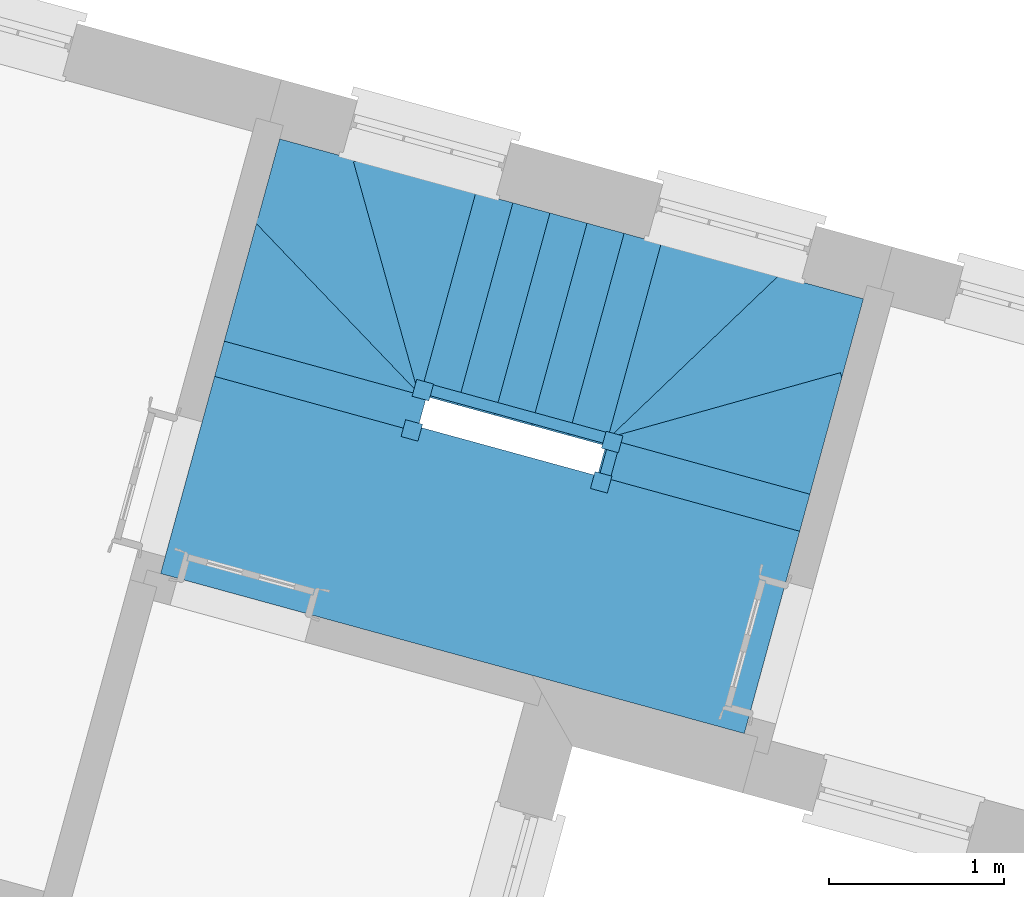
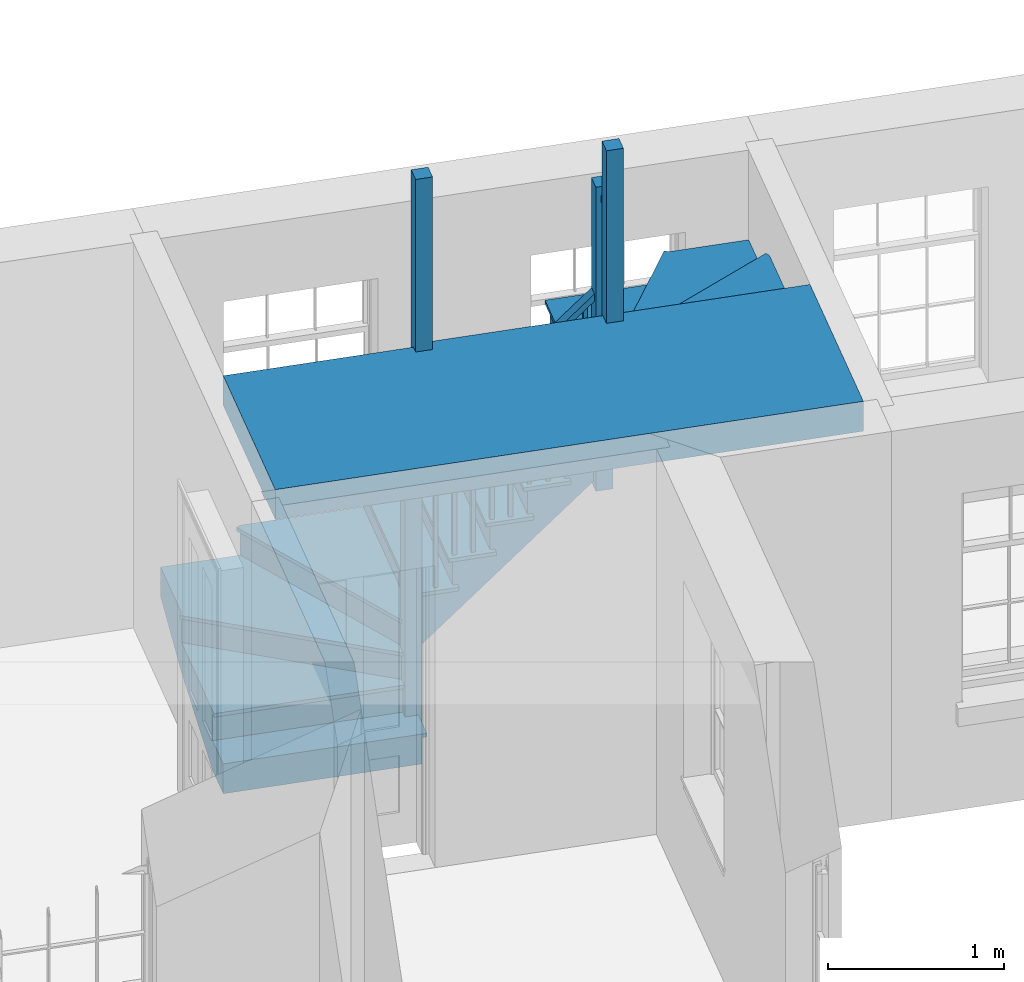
# One storey, part 4 of 4: 1 stair.
"""IFC4 building model written with IfcOpenShell, lengths in metres."""

from ifc_helpers import new_model, si_unit, frame, origin, origin_with_axes, place, context, subcontext, project, spatial, faceted_brep, element, save


model = new_model("IFC4")

# Units and contexts
model_context = context("Model", 3, world=origin_with_axes())
body_context = subcontext(model_context, "Body", "Model", "MODEL_VIEW")
ifc_project = project(units=[si_unit("PLANEANGLEUNIT", "RADIAN"), si_unit("MASSUNIT", "GRAM", prefix="KILO"), si_unit("FORCEUNIT", "NEWTON", prefix="KILO"), si_unit("LENGTHUNIT", "METRE"), si_unit("AREAUNIT", "SQUARE_METRE"), si_unit("VOLUMEUNIT", "CUBIC_METRE")], contexts=[model_context, model_context])

# Sites, building, storey
site_1_placement = place(None, origin_with_axes())
site_1 = spatial("IfcSite", under=ifc_project, at=site_1_placement, Name="Tamar")
site_2_placement = place(site_1_placement, origin_with_axes())
site_2 = spatial("IfcSite", under=site_1, at=site_2_placement, Name="Site plot-29", CompositionType="ELEMENT")
building_placement = place(None, origin_with_axes())
building = spatial("IfcBuilding", under=site_2, at=building_placement, Name="Building plot-29", CompositionType="ELEMENT")
storey_placement = place(None, frame((0.0, 0.0, 27.85), z_axis=(0.0, 0.0, 1.0), x_axis=(1.0, 0.0, 0.0)))
storey = spatial("IfcBuildingStorey", under=building, at=storey_placement, Name="plot-29 1", CompositionType="ELEMENT", Elevation=27.85)

# Stair
stair_placement = place(None, origin())
element("IfcStair", 1, at=stair_placement, inside=storey, Name="Stair", PredefinedType="NOTDEFINED", context=body_context, shape_type="Brep", body=[
    faceted_brep([(276.181255, 263.110223, 30.342308), (277.309664, 262.801045, 30.342308), (277.367801, 263.013224, 30.342308), (276.239391, 263.322403, 30.342308), (276.239391, 263.322403, 29.926923), (277.367801, 263.013224, 29.926923), (277.309664, 262.801045, 30.134615), (276.181255, 263.110223, 30.134615)], [[[0, 1, 2, 3]], [[4, 5, 6, 7]], [[7, 6, 1, 0]], [[1, 6, 5, 2]], [[5, 4, 3, 2]], [[3, 4, 7, 0]]]),
    faceted_brep([(277.375728, 263.042158, 30.317308), (277.375728, 263.042158, 30.342308), (277.367801, 263.013224, 30.317308), (277.301737, 262.772111, 30.342308), (277.301737, 262.772111, 30.317308), (277.309664, 262.801045, 30.317308), (277.367801, 263.013224, 30.342308), (277.309664, 262.801045, 30.342308), (276.218385, 263.359264, 30.342308), (276.239391, 263.322403, 30.342308), (276.239391, 263.322403, 30.317308), (276.218385, 263.359264, 30.317308), (276.144393, 263.089217, 30.342308), (276.181255, 263.110223, 30.342308), (276.181255, 263.110223, 30.317308), (276.144393, 263.089217, 30.317308)], [[[0, 1, 2]], [[3, 4, 5]], [[2, 1, 6]], [[3, 5, 7]], [[6, 1, 8, 9]], [[2, 6, 9, 10]], [[0, 2, 10, 11]], [[1, 0, 11, 8]], [[9, 8, 12, 13]], [[10, 9, 13, 14]], [[11, 10, 14, 15]], [[8, 11, 15, 12]], [[13, 12, 3, 7]], [[14, 13, 7, 5]], [[15, 14, 5, 4]], [[12, 15, 4, 3]]]),
    faceted_brep([(276.239391, 263.322403, 31.242308), (276.232784, 263.298292, 31.242308), (276.256896, 263.291685, 31.242308), (276.263502, 263.315796, 31.242308), (276.263502, 263.315796, 30.342308), (276.256896, 263.291685, 30.342308), (276.232784, 263.298292, 30.342308), (276.239391, 263.322403, 30.342308)], [[[0, 1, 2, 3]], [[4, 5, 6, 7]], [[7, 6, 1, 0]], [[6, 5, 2, 1]], [[5, 4, 3, 2]], [[4, 7, 0, 3]]]),
    faceted_brep([(276.210323, 263.216313, 31.346154), (276.203716, 263.192202, 31.346154), (276.227828, 263.185595, 31.346154), (276.234434, 263.209707, 31.346154), (276.234434, 263.209707, 30.342308), (276.227828, 263.185595, 30.342308), (276.203716, 263.192202, 30.342308), (276.210323, 263.216313, 30.342308)], [[[0, 1, 2, 3]], [[4, 5, 6, 7]], [[7, 6, 1, 0]], [[6, 5, 2, 1]], [[5, 4, 3, 2]], [[4, 7, 0, 3]]]),
    faceted_brep([(276.282791, 263.310511, 31.192308), (276.220102, 263.327688, 31.192308), (276.220102, 263.327688, 31.242308), (276.282791, 263.310511, 31.242308), (276.161966, 263.115508, 31.4), (276.224655, 263.098332, 31.4), (276.224655, 263.098332, 31.45), (276.161966, 263.115508, 31.45)], [[[0, 1, 2, 3]], [[4, 5, 6, 7]], [[0, 5, 4, 1]], [[3, 2, 7, 6]], [[0, 3, 6, 5]], [[2, 1, 4, 7]]]),
    faceted_brep([(276.239391, 263.322403, 30.134615), (277.367801, 263.013224, 30.134615), (277.372849, 263.031651, 30.134615), (276.24444, 263.340829, 30.134615), (276.24444, 263.340829, 29.926923), (277.372849, 263.031651, 29.926923), (277.367801, 263.013224, 29.926923), (276.239391, 263.322403, 29.926923)], [[[0, 1, 2, 3]], [[4, 5, 6, 7]], [[7, 6, 1, 0]], [[6, 5, 2, 1]], [[5, 4, 3, 2]], [[4, 7, 0, 3]]]),
    faceted_brep([(276.24444, 263.340829, 30.109615), (276.215506, 263.348757, 30.109615), (276.24444, 263.340829, 30.134615), (276.210457, 263.330331, 30.109615), (276.239391, 263.322403, 30.109615), (276.239391, 263.322403, 30.134615), (276.215506, 263.348757, 30.134615), (276.210457, 263.330331, 30.134615)], [[[0, 1, 2]], [[3, 4, 5]], [[1, 6, 2]], [[7, 3, 5]], [[2, 6, 7, 5]], [[0, 2, 5, 4]], [[1, 0, 4, 3]], [[6, 1, 3, 7]]]),
    faceted_brep([(276.20943, 263.402265, 31.334615), (276.183004, 263.30582, 31.334615), (276.279449, 263.279394, 31.334615), (276.305875, 263.375839, 31.334615), (276.305875, 263.375839, 30.134615), (276.279449, 263.279394, 30.134615), (276.183004, 263.30582, 30.134615), (276.20943, 263.402265, 30.134615)], [[[0, 1, 2, 3]], [[4, 5, 6, 7]], [[7, 6, 1, 0]], [[6, 5, 2, 1]], [[5, 4, 3, 2]], [[4, 7, 0, 3]]]),
    faceted_brep([(277.372849, 263.031651, 30.134615), (277.558357, 263.708697, 30.134615), (276.24444, 263.340829, 30.134615), (276.24444, 263.340829, 29.719231), (277.558357, 263.708697, 29.719231), (277.372849, 263.031651, 29.926923)], [[[0, 1, 2]], [[3, 4, 5]], [[0, 5, 4, 1]], [[4, 3, 2, 1]], [[2, 3, 5, 0]]]),
    faceted_brep([(277.558357, 263.708697, 30.109615), (277.550268, 263.737586, 30.109615), (277.558357, 263.708697, 30.134615), (276.236351, 263.369719, 30.109615), (276.24444, 263.340829, 30.109615), (276.24444, 263.340829, 30.134615), (277.550268, 263.737586, 30.134615), (276.236351, 263.369719, 30.134615)], [[[0, 1, 2]], [[3, 4, 5]], [[1, 6, 2]], [[7, 3, 5]], [[2, 6, 7, 5]], [[0, 2, 5, 4]], [[1, 0, 4, 3]], [[6, 1, 3, 7]]]),
    faceted_brep([(277.558357, 263.708697, 29.926923), (277.682028, 264.16006, 29.926923), (277.230664, 264.283732, 29.926923), (276.24444, 263.340829, 29.926923), (276.24444, 263.340829, 29.511538), (277.230664, 264.283732, 29.511538), (277.682028, 264.16006, 29.719231), (277.558357, 263.708697, 29.719231)], [[[0, 1, 2, 3]], [[4, 5, 6, 7]], [[7, 6, 1, 0]], [[1, 6, 5, 2]], [[5, 4, 3, 2]], [[3, 4, 7, 0]]]),
    faceted_brep([(277.209933, 264.305416, 29.901923), (277.209933, 264.305416, 29.926923), (277.230664, 264.283732, 29.901923), (276.223708, 263.362514, 29.926923), (276.223708, 263.362514, 29.901923), (276.24444, 263.340829, 29.901923), (277.230664, 264.283732, 29.926923), (276.24444, 263.340829, 29.926923)], [[[0, 1, 2]], [[3, 4, 5]], [[2, 1, 6]], [[3, 5, 7]], [[6, 1, 3, 7]], [[2, 6, 7, 5]], [[0, 2, 5, 4]], [[1, 0, 4, 3]]]),
    faceted_brep([(277.230664, 264.283732, 29.719231), (276.553618, 264.469239, 29.719231), (276.24444, 263.340829, 29.719231), (276.24444, 263.340829, 29.303846), (276.553618, 264.469239, 29.303846), (277.230664, 264.283732, 29.511538)], [[[0, 1, 2]], [[3, 4, 5]], [[0, 5, 4, 1]], [[4, 3, 2, 1]], [[2, 3, 5, 0]]]),
    faceted_brep([(276.524685, 264.477167, 29.694231), (276.524685, 264.477167, 29.719231), (276.553618, 264.469239, 29.694231), (276.215506, 263.348757, 29.719231), (276.215506, 263.348757, 29.694231), (276.24444, 263.340829, 29.694231), (276.553618, 264.469239, 29.719231), (276.24444, 263.340829, 29.719231)], [[[0, 1, 2]], [[3, 4, 5]], [[2, 1, 6]], [[3, 5, 7]], [[6, 1, 3, 7]], [[2, 6, 7, 5]], [[0, 2, 5, 4]], [[1, 0, 4, 3]]]),
    faceted_brep([(276.20943, 263.402265, 30.134615), (276.183004, 263.30582, 30.134615), (276.279449, 263.279394, 30.134615), (276.305875, 263.375839, 30.134615), (276.305875, 263.375839, 29.219231), (276.279449, 263.279394, 29.219231), (276.183004, 263.30582, 29.219231), (276.20943, 263.402265, 29.219231)], [[[0, 1, 2, 3]], [[4, 5, 6, 7]], [[7, 6, 1, 0]], [[6, 5, 2, 1]], [[5, 4, 3, 2]], [[4, 7, 0, 3]]]),
    faceted_brep([(276.24444, 263.340829, 29.511538), (276.553618, 264.469239, 29.511538), (276.341439, 264.527375, 29.511538), (276.03226, 263.398966, 29.511538), (276.03226, 263.398966, 29.096154), (276.341439, 264.527375, 29.096154), (276.553618, 264.469239, 29.303846), (276.24444, 263.340829, 29.303846)], [[[0, 1, 2, 3]], [[4, 5, 6, 7]], [[7, 6, 1, 0]], [[1, 6, 5, 2]], [[5, 4, 3, 2]], [[3, 4, 7, 0]]]),
    faceted_brep([(276.341439, 264.527375, 29.486538), (276.312505, 264.535303, 29.486538), (276.341439, 264.527375, 29.511538), (276.582552, 264.461312, 29.486538), (276.553618, 264.469239, 29.486538), (276.553618, 264.469239, 29.511538), (276.312505, 264.535303, 29.511538), (276.582552, 264.461312, 29.511538), (275.995399, 263.37796, 29.511538), (276.03226, 263.398966, 29.511538), (276.03226, 263.398966, 29.486538), (275.995399, 263.37796, 29.486538), (276.265446, 263.303968, 29.511538), (276.24444, 263.340829, 29.511538), (276.24444, 263.340829, 29.486538), (276.265446, 263.303968, 29.486538)], [[[0, 1, 2]], [[3, 4, 5]], [[1, 6, 2]], [[7, 3, 5]], [[2, 6, 8, 9]], [[0, 2, 9, 10]], [[1, 0, 10, 11]], [[6, 1, 11, 8]], [[9, 8, 12, 13]], [[10, 9, 13, 14]], [[11, 10, 14, 15]], [[8, 11, 15, 12]], [[13, 12, 7, 5]], [[14, 13, 5, 4]], [[15, 14, 4, 3]], [[12, 15, 3, 7]]]),
    faceted_brep([(276.03226, 263.398966, 30.411538), (276.056371, 263.392359, 30.411538), (276.062978, 263.416471, 30.411538), (276.038866, 263.423077, 30.411538), (276.038866, 263.423077, 29.511538), (276.062978, 263.416471, 29.511538), (276.056371, 263.392359, 29.511538), (276.03226, 263.398966, 29.511538)], [[[0, 1, 2, 3]], [[4, 5, 6, 7]], [[7, 6, 1, 0]], [[6, 5, 2, 1]], [[5, 4, 3, 2]], [[4, 7, 0, 3]]]),
    faceted_brep([(276.13835, 263.369898, 30.515385), (276.162461, 263.363291, 30.515385), (276.169067, 263.387402, 30.515385), (276.144956, 263.394009, 30.515385), (276.144956, 263.394009, 29.511538), (276.169067, 263.387402, 29.511538), (276.162461, 263.363291, 29.511538), (276.13835, 263.369898, 29.511538)], [[[0, 1, 2, 3]], [[4, 5, 6, 7]], [[7, 6, 1, 0]], [[6, 5, 2, 1]], [[5, 4, 3, 2]], [[4, 7, 0, 3]]]),
    faceted_brep([(276.044151, 263.442366, 30.361538), (276.026975, 263.379677, 30.361538), (276.026975, 263.379677, 30.411538), (276.044151, 263.442366, 30.411538), (276.239154, 263.32154, 30.569231), (276.256331, 263.38423, 30.569231), (276.256331, 263.38423, 30.619231), (276.239154, 263.32154, 30.619231)], [[[0, 1, 2, 3]], [[4, 5, 6, 7]], [[0, 5, 4, 1]], [[3, 2, 7, 6]], [[0, 3, 6, 5]], [[2, 1, 4, 7]]]),
    faceted_brep([(276.03226, 263.398966, 29.303846), (276.341439, 264.527375, 29.303846), (276.129259, 264.585512, 29.303846), (275.82008, 263.457102, 29.303846), (275.82008, 263.457102, 28.888462), (276.129259, 264.585512, 28.888462), (276.341439, 264.527375, 29.096154), (276.03226, 263.398966, 29.096154)], [[[0, 1, 2, 3]], [[4, 5, 6, 7]], [[7, 6, 1, 0]], [[1, 6, 5, 2]], [[5, 4, 3, 2]], [[3, 4, 7, 0]]]),
    faceted_brep([(276.100325, 264.593439, 29.278846), (276.100325, 264.593439, 29.303846), (276.129259, 264.585512, 29.278846), (276.370372, 264.519448, 29.303846), (276.370372, 264.519448, 29.278846), (276.341439, 264.527375, 29.278846), (276.129259, 264.585512, 29.303846), (276.341439, 264.527375, 29.303846), (275.783219, 263.436096, 29.303846), (275.82008, 263.457102, 29.303846), (275.82008, 263.457102, 29.278846), (275.783219, 263.436096, 29.278846), (276.053266, 263.362104, 29.303846), (276.03226, 263.398966, 29.303846), (276.03226, 263.398966, 29.278846), (276.053266, 263.362104, 29.278846)], [[[0, 1, 2]], [[3, 4, 5]], [[2, 1, 6]], [[3, 5, 7]], [[6, 1, 8, 9]], [[2, 6, 9, 10]], [[0, 2, 10, 11]], [[1, 0, 11, 8]], [[9, 8, 12, 13]], [[10, 9, 13, 14]], [[11, 10, 14, 15]], [[8, 11, 15, 12]], [[13, 12, 3, 7]], [[14, 13, 7, 5]], [[15, 14, 5, 4]], [[12, 15, 4, 3]]]),
    faceted_brep([(275.82008, 263.457102, 30.203846), (275.844192, 263.450495, 30.203846), (275.850798, 263.474607, 30.203846), (275.826687, 263.481213, 30.203846), (275.826687, 263.481213, 29.303846), (275.850798, 263.474607, 29.303846), (275.844192, 263.450495, 29.303846), (275.82008, 263.457102, 29.303846)], [[[0, 1, 2, 3]], [[4, 5, 6, 7]], [[7, 6, 1, 0]], [[6, 5, 2, 1]], [[5, 4, 3, 2]], [[4, 7, 0, 3]]]),
    faceted_brep([(275.92617, 263.428034, 30.307692), (275.950281, 263.421427, 30.307692), (275.956888, 263.445539, 30.307692), (275.932777, 263.452145, 30.307692), (275.932777, 263.452145, 29.303846), (275.956888, 263.445539, 29.303846), (275.950281, 263.421427, 29.303846), (275.92617, 263.428034, 29.303846)], [[[0, 1, 2, 3]], [[4, 5, 6, 7]], [[7, 6, 1, 0]], [[6, 5, 2, 1]], [[5, 4, 3, 2]], [[4, 7, 0, 3]]]),
    faceted_brep([(275.831972, 263.500502, 30.153846), (275.814795, 263.437813, 30.153846), (275.814795, 263.437813, 30.203846), (275.831972, 263.500502, 30.203846), (276.026975, 263.379677, 30.361538), (276.044151, 263.442366, 30.361538), (276.044151, 263.442366, 30.411538), (276.026975, 263.379677, 30.411538)], [[[0, 1, 2, 3]], [[4, 5, 6, 7]], [[0, 5, 4, 1]], [[3, 2, 7, 6]], [[0, 3, 6, 5]], [[2, 1, 4, 7]]]),
    faceted_brep([(275.82008, 263.457102, 29.096154), (276.129259, 264.585512, 29.096154), (275.917079, 264.643648, 29.096154), (275.607901, 263.515238, 29.096154), (275.607901, 263.515238, 28.680769), (275.917079, 264.643648, 28.680769), (276.129259, 264.585512, 28.888462), (275.82008, 263.457102, 28.888462)], [[[0, 1, 2, 3]], [[4, 5, 6, 7]], [[7, 6, 1, 0]], [[1, 6, 5, 2]], [[5, 4, 3, 2]], [[3, 4, 7, 0]]]),
    faceted_brep([(275.888146, 264.651575, 29.071154), (275.888146, 264.651575, 29.096154), (275.917079, 264.643648, 29.071154), (276.158193, 264.577584, 29.096154), (276.158193, 264.577584, 29.071154), (276.129259, 264.585512, 29.071154), (275.917079, 264.643648, 29.096154), (276.129259, 264.585512, 29.096154), (275.57104, 263.494232, 29.096154), (275.607901, 263.515238, 29.096154), (275.607901, 263.515238, 29.071154), (275.57104, 263.494232, 29.071154), (275.841086, 263.420241, 29.096154), (275.82008, 263.457102, 29.096154), (275.82008, 263.457102, 29.071154), (275.841086, 263.420241, 29.071154)], [[[0, 1, 2]], [[3, 4, 5]], [[2, 1, 6]], [[3, 5, 7]], [[6, 1, 8, 9]], [[2, 6, 9, 10]], [[0, 2, 10, 11]], [[1, 0, 11, 8]], [[9, 8, 12, 13]], [[10, 9, 13, 14]], [[11, 10, 14, 15]], [[8, 11, 15, 12]], [[13, 12, 3, 7]], [[14, 13, 7, 5]], [[15, 14, 5, 4]], [[12, 15, 4, 3]]]),
    faceted_brep([(275.607901, 263.515238, 29.996154), (275.632012, 263.508632, 29.996154), (275.638618, 263.532743, 29.996154), (275.614507, 263.539349, 29.996154), (275.614507, 263.539349, 29.096154), (275.638618, 263.532743, 29.096154), (275.632012, 263.508632, 29.096154), (275.607901, 263.515238, 29.096154)], [[[0, 1, 2, 3]], [[4, 5, 6, 7]], [[7, 6, 1, 0]], [[6, 5, 2, 1]], [[5, 4, 3, 2]], [[4, 7, 0, 3]]]),
    faceted_brep([(275.713991, 263.48617, 30.1), (275.738102, 263.479563, 30.1), (275.744708, 263.503675, 30.1), (275.720597, 263.510281, 30.1), (275.720597, 263.510281, 29.096154), (275.744708, 263.503675, 29.096154), (275.738102, 263.479563, 29.096154), (275.713991, 263.48617, 29.096154)], [[[0, 1, 2, 3]], [[4, 5, 6, 7]], [[7, 6, 1, 0]], [[6, 5, 2, 1]], [[5, 4, 3, 2]], [[4, 7, 0, 3]]]),
    faceted_brep([(275.619792, 263.558638, 29.946154), (275.602616, 263.495949, 29.946154), (275.602616, 263.495949, 29.996154), (275.619792, 263.558638, 29.996154), (275.814795, 263.437813, 30.153846), (275.831972, 263.500502, 30.153846), (275.831972, 263.500502, 30.203846), (275.814795, 263.437813, 30.203846)], [[[0, 1, 2, 3]], [[4, 5, 6, 7]], [[0, 5, 4, 1]], [[3, 2, 7, 6]], [[0, 3, 6, 5]], [[2, 1, 4, 7]]]),
    faceted_brep([(275.607901, 263.515238, 28.888462), (275.917079, 264.643648, 28.888462), (275.7049, 264.701784, 28.888462), (275.395721, 263.573374, 28.888462), (275.395721, 263.573374, 28.473077), (275.7049, 264.701784, 28.473077), (275.917079, 264.643648, 28.680769), (275.607901, 263.515238, 28.680769)], [[[0, 1, 2, 3]], [[4, 5, 6, 7]], [[7, 6, 1, 0]], [[1, 6, 5, 2]], [[5, 4, 3, 2]], [[3, 4, 7, 0]]]),
    faceted_brep([(275.675966, 264.709711, 28.863462), (275.675966, 264.709711, 28.888462), (275.7049, 264.701784, 28.863462), (275.946013, 264.63572, 28.888462), (275.946013, 264.63572, 28.863462), (275.917079, 264.643648, 28.863462), (275.7049, 264.701784, 28.888462), (275.917079, 264.643648, 28.888462), (275.35886, 263.552368, 28.888462), (275.395721, 263.573374, 28.888462), (275.395721, 263.573374, 28.863462), (275.35886, 263.552368, 28.863462), (275.628907, 263.478377, 28.888462), (275.607901, 263.515238, 28.888462), (275.607901, 263.515238, 28.863462), (275.628907, 263.478377, 28.863462)], [[[0, 1, 2]], [[3, 4, 5]], [[2, 1, 6]], [[3, 5, 7]], [[6, 1, 8, 9]], [[2, 6, 9, 10]], [[0, 2, 10, 11]], [[1, 0, 11, 8]], [[9, 8, 12, 13]], [[10, 9, 13, 14]], [[11, 10, 14, 15]], [[8, 11, 15, 12]], [[13, 12, 3, 7]], [[14, 13, 7, 5]], [[15, 14, 5, 4]], [[12, 15, 4, 3]]]),
    faceted_brep([(275.395721, 263.573374, 29.788462), (275.419832, 263.566768, 29.788462), (275.426439, 263.590879, 29.788462), (275.402328, 263.597485, 29.788462), (275.402328, 263.597485, 28.888462), (275.426439, 263.590879, 28.888462), (275.419832, 263.566768, 28.888462), (275.395721, 263.573374, 28.888462)], [[[0, 1, 2, 3]], [[4, 5, 6, 7]], [[7, 6, 1, 0]], [[6, 5, 2, 1]], [[5, 4, 3, 2]], [[4, 7, 0, 3]]]),
    faceted_brep([(275.501811, 263.544306, 29.892308), (275.525922, 263.5377, 29.892308), (275.532529, 263.561811, 29.892308), (275.508417, 263.568417, 29.892308), (275.508417, 263.568417, 28.888462), (275.532529, 263.561811, 28.888462), (275.525922, 263.5377, 28.888462), (275.501811, 263.544306, 28.888462)], [[[0, 1, 2, 3]], [[4, 5, 6, 7]], [[7, 6, 1, 0]], [[6, 5, 2, 1]], [[5, 4, 3, 2]], [[4, 7, 0, 3]]]),
    faceted_brep([(275.407613, 263.616774, 29.738462), (275.390436, 263.554085, 29.738462), (275.390436, 263.554085, 29.788462), (275.407613, 263.616774, 29.788462), (275.602616, 263.495949, 29.946154), (275.619792, 263.558638, 29.946154), (275.619792, 263.558638, 29.996154), (275.602616, 263.495949, 29.996154)], [[[0, 1, 2, 3]], [[4, 5, 6, 7]], [[0, 5, 4, 1]], [[3, 2, 7, 6]], [[0, 3, 6, 5]], [[2, 1, 4, 7]]]),
    faceted_brep([(275.395721, 263.573374, 28.680769), (275.7049, 264.701784, 28.680769), (275.49272, 264.75992, 28.680769), (275.183542, 263.63151, 28.680769), (275.183542, 263.63151, 28.265385), (275.49272, 264.75992, 28.265385), (275.7049, 264.701784, 28.473077), (275.395721, 263.573374, 28.473077)], [[[0, 1, 2, 3]], [[4, 5, 6, 7]], [[7, 6, 1, 0]], [[1, 6, 5, 2]], [[5, 4, 3, 2]], [[3, 4, 7, 0]]]),
    faceted_brep([(275.463787, 264.767848, 28.655769), (275.463787, 264.767848, 28.680769), (275.49272, 264.75992, 28.655769), (275.733833, 264.693856, 28.680769), (275.733833, 264.693856, 28.655769), (275.7049, 264.701784, 28.655769), (275.49272, 264.75992, 28.680769), (275.7049, 264.701784, 28.680769), (275.14668, 263.610504, 28.680769), (275.183542, 263.63151, 28.680769), (275.183542, 263.63151, 28.655769), (275.14668, 263.610504, 28.655769), (275.416727, 263.536513, 28.680769), (275.395721, 263.573374, 28.680769), (275.395721, 263.573374, 28.655769), (275.416727, 263.536513, 28.655769)], [[[0, 1, 2]], [[3, 4, 5]], [[2, 1, 6]], [[3, 5, 7]], [[6, 1, 8, 9]], [[2, 6, 9, 10]], [[0, 2, 10, 11]], [[1, 0, 11, 8]], [[9, 8, 12, 13]], [[10, 9, 13, 14]], [[11, 10, 14, 15]], [[8, 11, 15, 12]], [[13, 12, 3, 7]], [[14, 13, 7, 5]], [[15, 14, 5, 4]], [[12, 15, 4, 3]]]),
    faceted_brep([(275.183542, 263.63151, 29.580769), (275.207653, 263.624904, 29.580769), (275.214259, 263.649015, 29.580769), (275.190148, 263.655622, 29.580769), (275.190148, 263.655622, 28.680769), (275.214259, 263.649015, 28.680769), (275.207653, 263.624904, 28.680769), (275.183542, 263.63151, 28.680769)], [[[0, 1, 2, 3]], [[4, 5, 6, 7]], [[7, 6, 1, 0]], [[6, 5, 2, 1]], [[5, 4, 3, 2]], [[4, 7, 0, 3]]]),
    faceted_brep([(275.289631, 263.602442, 29.684615), (275.313743, 263.595836, 29.684615), (275.320349, 263.619947, 29.684615), (275.296238, 263.626554, 29.684615), (275.296238, 263.626554, 28.680769), (275.320349, 263.619947, 28.680769), (275.313743, 263.595836, 28.680769), (275.289631, 263.602442, 28.680769)], [[[0, 1, 2, 3]], [[4, 5, 6, 7]], [[7, 6, 1, 0]], [[6, 5, 2, 1]], [[5, 4, 3, 2]], [[4, 7, 0, 3]]]),
    faceted_brep([(275.195433, 263.674911, 29.530769), (275.178256, 263.612221, 29.530769), (275.178256, 263.612221, 29.580769), (275.195433, 263.674911, 29.580769), (275.390436, 263.554085, 29.738462), (275.407613, 263.616774, 29.738462), (275.407613, 263.616774, 29.788462), (275.390436, 263.554085, 29.788462)], [[[0, 1, 2, 3]], [[4, 5, 6, 7]], [[0, 5, 4, 1]], [[3, 2, 7, 6]], [[0, 3, 6, 5]], [[2, 1, 4, 7]]]),
    faceted_brep([(275.183542, 263.63151, 28.473077), (275.49272, 264.75992, 28.473077), (275.469751, 264.766213, 28.473077), (275.160573, 263.637804, 28.473077), (275.160573, 263.637804, 28.265385), (275.469751, 264.766213, 28.265385), (275.49272, 264.75992, 28.265385), (275.183542, 263.63151, 28.265385)], [[[0, 1, 2, 3]], [[4, 5, 6, 7]], [[7, 6, 1, 0]], [[6, 5, 2, 1]], [[5, 4, 3, 2]], [[4, 7, 0, 3]]]),
    faceted_brep([(275.152645, 263.60887, 28.448077), (275.152645, 263.60887, 28.473077), (275.160573, 263.637804, 28.448077), (275.175614, 263.602577, 28.473077), (275.175614, 263.602577, 28.448077), (275.183542, 263.63151, 28.448077), (275.160573, 263.637804, 28.473077), (275.183542, 263.63151, 28.473077)], [[[0, 1, 2]], [[3, 4, 5]], [[2, 1, 6]], [[3, 5, 7]], [[6, 1, 3, 7]], [[2, 6, 7, 5]], [[0, 2, 5, 4]], [[1, 0, 4, 3]]]),
    faceted_brep([(275.099137, 263.602794, 29.673077), (275.195582, 263.576368, 29.673077), (275.222008, 263.672814, 29.673077), (275.125563, 263.699239, 29.673077), (275.125563, 263.699239, 28.473077), (275.222008, 263.672814, 28.473077), (275.195582, 263.576368, 28.473077), (275.099137, 263.602794, 28.473077)], [[[0, 1, 2, 3]], [[4, 5, 6, 7]], [[7, 6, 1, 0]], [[6, 5, 2, 1]], [[5, 4, 3, 2]], [[4, 7, 0, 3]]]),
    faceted_brep([(275.469751, 264.766213, 28.473077), (274.792705, 264.951721, 28.473077), (275.160573, 263.637804, 28.473077), (275.160573, 263.637804, 28.057692), (274.792705, 264.951721, 28.057692), (275.469751, 264.766213, 28.265385)], [[[0, 1, 2]], [[3, 4, 5]], [[0, 5, 4, 1]], [[4, 3, 2, 1]], [[2, 3, 5, 0]]]),
    faceted_brep([(274.792705, 264.951721, 28.448077), (274.763816, 264.943632, 28.448077), (274.792705, 264.951721, 28.473077), (275.131683, 263.629715, 28.448077), (275.160573, 263.637804, 28.448077), (275.160573, 263.637804, 28.473077), (274.763816, 264.943632, 28.473077), (275.131683, 263.629715, 28.473077)], [[[0, 1, 2]], [[3, 4, 5]], [[1, 6, 2]], [[7, 3, 5]], [[2, 6, 7, 5]], [[0, 2, 5, 4]], [[1, 0, 4, 3]], [[6, 1, 3, 7]]]),
    faceted_brep([(274.792705, 264.951721, 28.265385), (274.341342, 265.075392, 28.265385), (274.21767, 264.624028, 28.265385), (275.160573, 263.637804, 28.265385), (275.160573, 263.637804, 27.85), (274.21767, 264.624028, 27.85), (274.341342, 265.075392, 28.057692), (274.792705, 264.951721, 28.057692)], [[[0, 1, 2, 3]], [[4, 5, 6, 7]], [[7, 6, 1, 0]], [[1, 6, 5, 2]], [[5, 4, 3, 2]], [[3, 4, 7, 0]]]),
    faceted_brep([(274.21767, 264.624028, 28.240385), (274.195986, 264.603297, 28.240385), (274.21767, 264.624028, 28.265385), (275.138888, 263.617072, 28.240385), (275.160573, 263.637804, 28.240385), (275.160573, 263.637804, 28.265385), (274.195986, 264.603297, 28.265385), (275.138888, 263.617072, 28.265385)], [[[0, 1, 2]], [[3, 4, 5]], [[1, 6, 2]], [[7, 3, 5]], [[2, 6, 7, 5]], [[0, 2, 5, 4]], [[1, 0, 4, 3]], [[6, 1, 3, 7]]]),
    faceted_brep([(274.21767, 264.624028, 28.057692), (274.032163, 263.946982, 28.057692), (275.160573, 263.637804, 28.057692), (275.160573, 263.637804, 27.642308), (274.032163, 263.946982, 27.642308), (274.21767, 264.624028, 27.85)], [[[0, 1, 2]], [[3, 4, 5]], [[0, 5, 4, 1]], [[4, 3, 2, 1]], [[2, 3, 5, 0]]]),
    faceted_brep([(274.024235, 263.918049, 28.032692), (274.024235, 263.918049, 28.057692), (274.032163, 263.946982, 28.032692), (275.152645, 263.60887, 28.057692), (275.152645, 263.60887, 28.032692), (275.160573, 263.637804, 28.032692), (274.032163, 263.946982, 28.057692), (275.160573, 263.637804, 28.057692)], [[[0, 1, 2]], [[3, 4, 5]], [[2, 1, 6]], [[3, 5, 7]], [[6, 1, 3, 7]], [[2, 6, 7, 5]], [[0, 2, 5, 4]], [[1, 0, 4, 3]]]),
    faceted_brep([(275.099137, 263.602794, 28.473077), (275.195582, 263.576368, 28.473077), (275.222008, 263.672814, 28.473077), (275.125563, 263.699239, 28.473077), (275.125563, 263.699239, 27.557692), (275.222008, 263.672814, 27.557692), (275.195582, 263.576368, 27.557692), (275.099137, 263.602794, 27.557692)], [[[0, 1, 2, 3]], [[4, 5, 6, 7]], [[7, 6, 1, 0]], [[6, 5, 2, 1]], [[5, 4, 3, 2]], [[4, 7, 0, 3]]]),
    faceted_brep([(275.160573, 263.637804, 27.85), (274.032163, 263.946982, 27.85), (273.968978, 263.716376, 27.85), (275.097388, 263.407197, 27.85), (275.097388, 263.407197, 27.642308), (273.968978, 263.716376, 27.642308), (274.032163, 263.946982, 27.642308), (275.160573, 263.637804, 27.642308)], [[[0, 1, 2, 3]], [[4, 5, 6, 7]], [[7, 6, 1, 0]], [[6, 5, 2, 1]], [[5, 4, 3, 2]], [[4, 7, 0, 3]]]),
    faceted_brep([(275.126321, 263.39927, 27.825), (275.126321, 263.39927, 27.85), (275.097388, 263.407197, 27.825), (275.189506, 263.629876, 27.85), (275.189506, 263.629876, 27.825), (275.160573, 263.637804, 27.825), (275.097388, 263.407197, 27.85), (275.160573, 263.637804, 27.85)], [[[0, 1, 2]], [[3, 4, 5]], [[2, 1, 6]], [[3, 5, 7]], [[6, 1, 3, 7]], [[2, 6, 7, 5]], [[0, 2, 5, 4]], [[1, 0, 4, 3]]]),
    faceted_brep([(275.132397, 263.345762, 31.75), (275.158823, 263.442207, 31.75), (275.062378, 263.468633, 31.75), (275.035952, 263.372188, 31.75), (275.035952, 263.372188, 30.55), (275.062378, 263.468633, 30.55), (275.158823, 263.442207, 30.55), (275.132397, 263.345762, 30.55)], [[[0, 1, 2, 3]], [[4, 5, 6, 7]], [[7, 6, 1, 0]], [[6, 5, 2, 1]], [[5, 4, 3, 2]], [[4, 7, 0, 3]]]),
    faceted_brep([(275.097388, 263.407197, 30.55), (273.968978, 263.716376, 30.55), (273.659799, 262.587966, 30.55), (274.788209, 262.278788, 30.55), (274.788209, 262.278788, 30.342308), (273.659799, 262.587966, 30.342308), (273.968978, 263.716376, 30.342308), (275.097388, 263.407197, 30.342308)], [[[0, 1, 2, 3]], [[4, 5, 6, 7]], [[7, 6, 1, 0]], [[6, 5, 2, 1]], [[5, 4, 3, 2]], [[4, 7, 0, 3]]]),
    faceted_brep([(274.817142, 262.27086, 30.525), (274.817142, 262.27086, 30.55), (274.788209, 262.278788, 30.525), (275.126321, 263.39927, 30.55), (275.126321, 263.39927, 30.525), (275.097388, 263.407197, 30.525), (274.788209, 262.278788, 30.55), (275.097388, 263.407197, 30.55)], [[[0, 1, 2]], [[3, 4, 5]], [[2, 1, 6]], [[3, 5, 7]], [[6, 1, 3, 7]], [[2, 6, 7, 5]], [[0, 2, 5, 4]], [[1, 0, 4, 3]]]),
    faceted_brep([(275.132397, 263.345762, 30.55), (275.158823, 263.442207, 30.55), (275.062378, 263.468633, 30.55), (275.035952, 263.372188, 30.55), (275.035952, 263.372188, 30.05), (275.062378, 263.468633, 30.05), (275.158823, 263.442207, 30.05), (275.132397, 263.345762, 30.05)], [[[0, 1, 2, 3]], [[4, 5, 6, 7]], [[7, 6, 1, 0]], [[6, 5, 2, 1]], [[5, 4, 3, 2]], [[4, 7, 0, 3]]]),
    faceted_brep([(275.097388, 263.407197, 30.55), (274.788209, 262.278788, 30.55), (275.872076, 261.981814, 30.55), (276.181255, 263.110223, 30.55), (276.181255, 263.110223, 30.342308), (275.872076, 261.981814, 30.342308), (274.788209, 262.278788, 30.342308), (275.097388, 263.407197, 30.342308)], [[[0, 1, 2, 3]], [[4, 5, 6, 7]], [[7, 6, 1, 0]], [[6, 5, 2, 1]], [[5, 4, 3, 2]], [[4, 7, 0, 3]]]),
    faceted_brep([(276.181255, 263.110223, 30.525), (276.189182, 263.139157, 30.525), (276.181255, 263.110223, 30.55), (275.105315, 263.436131, 30.525), (275.097388, 263.407197, 30.525), (275.097388, 263.407197, 30.55), (276.189182, 263.139157, 30.55), (275.105315, 263.436131, 30.55)], [[[0, 1, 2]], [[3, 4, 5]], [[1, 6, 2]], [[7, 3, 5]], [[2, 6, 7, 5]], [[0, 2, 5, 4]], [[1, 0, 4, 3]], [[6, 1, 3, 7]]]),
    faceted_brep([(276.24269, 263.145233, 31.75), (276.146245, 263.171659, 31.75), (276.119819, 263.075213, 31.75), (276.216264, 263.048788, 31.75), (276.216264, 263.048788, 30.55), (276.119819, 263.075213, 30.55), (276.146245, 263.171659, 30.55), (276.24269, 263.145233, 30.55)], [[[0, 1, 2, 3]], [[4, 5, 6, 7]], [[7, 6, 1, 0]], [[6, 5, 2, 1]], [[5, 4, 3, 2]], [[4, 7, 0, 3]]]),
    faceted_brep([(276.181255, 263.110223, 30.55), (275.872076, 261.981814, 30.55), (277.000486, 261.672635, 30.55), (277.309664, 262.801045, 30.55), (277.309664, 262.801045, 30.342308), (277.000486, 261.672635, 30.342308), (275.872076, 261.981814, 30.342308), (276.181255, 263.110223, 30.342308)], [[[0, 1, 2, 3]], [[4, 5, 6, 7]], [[7, 6, 1, 0]], [[6, 5, 2, 1]], [[5, 4, 3, 2]], [[4, 7, 0, 3]]]),
    faceted_brep([(277.309664, 262.801045, 30.525), (277.317592, 262.829978, 30.525), (277.309664, 262.801045, 30.55), (276.189182, 263.139157, 30.525), (276.181255, 263.110223, 30.525), (276.181255, 263.110223, 30.55), (277.317592, 262.829978, 30.55), (276.189182, 263.139157, 30.55)], [[[0, 1, 2]], [[3, 4, 5]], [[1, 6, 2]], [[7, 3, 5]], [[2, 6, 7, 5]], [[0, 2, 5, 4]], [[1, 0, 4, 3]], [[6, 1, 3, 7]]]),
    faceted_brep([(276.24269, 263.145233, 30.55), (276.146245, 263.171659, 30.55), (276.119819, 263.075213, 30.55), (276.216264, 263.048788, 30.55), (276.216264, 263.048788, 30.05), (276.119819, 263.075213, 30.05), (276.146245, 263.171659, 30.05), (276.24269, 263.145233, 30.05)], [[[0, 1, 2, 3]], [[4, 5, 6, 7]], [[7, 6, 1, 0]], [[6, 5, 2, 1]], [[5, 4, 3, 2]], [[4, 7, 0, 3]]]),
])

save(model, "model.ifc")
